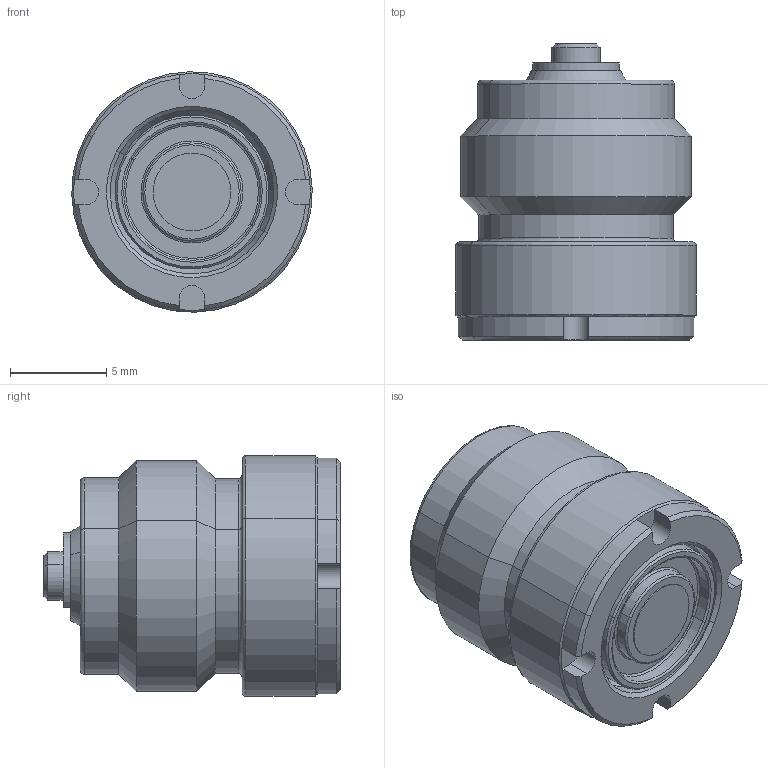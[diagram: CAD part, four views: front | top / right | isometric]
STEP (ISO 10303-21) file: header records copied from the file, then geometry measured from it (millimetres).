
FILE_DESCRIPTION(('CATIA V5 STEP Exchange'),'2;1');
FILE_NAME('\\Kjf-102\kjf_tc\Hydraulic_Clamp\Standard\AUTO_COUPLER\ACA-1208\ACA-12082_-_.stp','2026-08-25T04:43:50+00:00',('none'),('none'),'CATIA Version 5 Release 19 SP 6 (IN-10)','CATIA V5 STEP AP203','none');
FILE_SCHEMA(('CONFIG_CONTROL_DESIGN'));
Length unit declared in the file: millimetre
Products named in the file (1): ACA-12082_-_
Assembly tree (4 placements, depth 2):
  ACA-12082_-_
    #58
    #926
    #3140
    #3434
Bounding box: 12.5 x 15.4 x 12.5 mm (x, y, z)
Volume: 1402.4 mm3; surface area: 1397 mm2
Topology: 4 solids, 4 shells, 144 faces, 317 edges, 196 vertices
Faces by surface type: cylinder 58, plane 41, cone 22, torus 14, extrusion 9
Entity records: 3941 total; most frequent: CARTESIAN_POINT 912, ORIENTED_EDGE 634, DIRECTION 485, EDGE_CURVE 317, AXIS2_PLACEMENT_3D 254, VERTEX_POINT 196, EDGE_LOOP 163, CIRCLE 159
